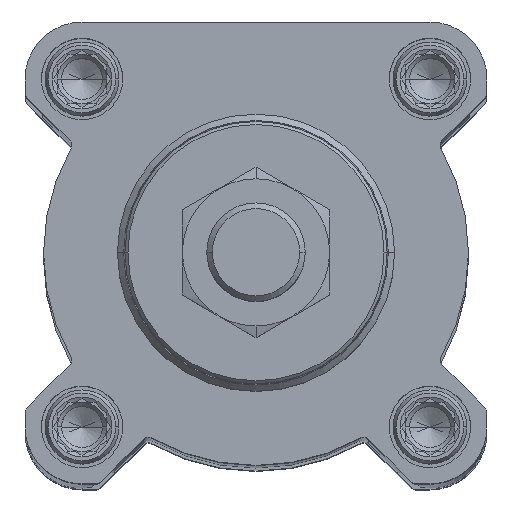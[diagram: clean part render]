
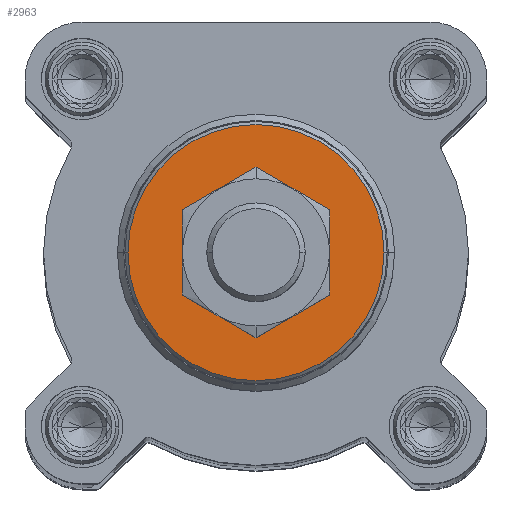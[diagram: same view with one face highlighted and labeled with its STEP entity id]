
A CAD part, top view. The second image highlights one B-rep face of the part: STEP entity #2963.
In plain terms, the highlighted planar face has unit normal (0, 0, 1).
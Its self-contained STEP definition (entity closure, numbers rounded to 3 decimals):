
#196 = DIRECTION ( 'NONE',  ( 0., -1., 0. ) ) ;
#578 = CARTESIAN_POINT ( 'NONE',  ( -20.799, 0., 27. ) ) ;
#670 = ORIENTED_EDGE ( 'NONE', *, *, #10789, .T. ) ;
#727 = AXIS2_PLACEMENT_3D ( 'NONE', #6364, #12506, #196 ) ;
#1183 = CARTESIAN_POINT ( 'NONE',  ( -10., 0., 27. ) ) ;
#2943 = CARTESIAN_POINT ( 'NONE',  ( 0., 0., 27. ) ) ;
#2963 = ADVANCED_FACE ( 'NONE', ( #10986, #13741 ), #14045, .F. ) ;
#3793 = AXIS2_PLACEMENT_3D ( 'NONE', #2943, #15258, #5776 ) ;
#4026 = EDGE_LOOP ( 'NONE', ( #5144, #12317 ) ) ;
#4743 = CIRCLE ( 'NONE', #3793, 10. ) ;
#5144 = ORIENTED_EDGE ( 'NONE', *, *, #7188, .F. ) ;
#5211 = CARTESIAN_POINT ( 'NONE',  ( 20.799, 0., 27. ) ) ;
#5319 = EDGE_CURVE ( 'NONE', #8805, #6653, #16770, .T. ) ;
#5691 = CARTESIAN_POINT ( 'NONE',  ( 0., 0., 27. ) ) ;
#5776 = DIRECTION ( 'NONE',  ( -1., 0., 0. ) ) ;
#6364 = CARTESIAN_POINT ( 'NONE',  ( 0., 0., 27. ) ) ;
#6467 = CIRCLE ( 'NONE', #13241, 20.799 ) ;
#6653 = VERTEX_POINT ( 'NONE', #578 ) ;
#7188 = EDGE_CURVE ( 'NONE', #6653, #8805, #6467, .T. ) ;
#7759 = CARTESIAN_POINT ( 'NONE',  ( 0., 0., 27. ) ) ;
#8023 = EDGE_CURVE ( 'NONE', #11099, #12427, #15477, .T. ) ;
#8351 = EDGE_LOOP ( 'NONE', ( #17185, #670 ) ) ;
#8805 = VERTEX_POINT ( 'NONE', #5211 ) ;
#8992 = DIRECTION ( 'NONE',  ( 0., 0., -1. ) ) ;
#9171 = DIRECTION ( 'NONE',  ( -1., 0., 0. ) ) ;
#9977 = AXIS2_PLACEMENT_3D ( 'NONE', #13800, #10843, #12567 ) ;
#10584 = DIRECTION ( 'NONE',  ( 0., 0., -1. ) ) ;
#10789 = EDGE_CURVE ( 'NONE', #12427, #11099, #4743, .T. ) ;
#10843 = DIRECTION ( 'NONE',  ( 0., 0., -1. ) ) ;
#10986 = FACE_OUTER_BOUND ( 'NONE', #4026, .T. ) ;
#11099 = VERTEX_POINT ( 'NONE', #1183 ) ;
#12317 = ORIENTED_EDGE ( 'NONE', *, *, #5319, .F. ) ;
#12427 = VERTEX_POINT ( 'NONE', #14364 ) ;
#12506 = DIRECTION ( 'NONE',  ( 0., 0., -1. ) ) ;
#12567 = DIRECTION ( 'NONE',  ( -1., 0., 0. ) ) ;
#13241 = AXIS2_PLACEMENT_3D ( 'NONE', #5691, #8992, #14788 ) ;
#13741 = FACE_BOUND ( 'NONE', #8351, .T. ) ;
#13800 = CARTESIAN_POINT ( 'NONE',  ( 0., 0., 27. ) ) ;
#14045 = PLANE ( 'NONE',  #727 ) ;
#14364 = CARTESIAN_POINT ( 'NONE',  ( 10., 0., 27. ) ) ;
#14522 = AXIS2_PLACEMENT_3D ( 'NONE', #7759, #10584, #9171 ) ;
#14788 = DIRECTION ( 'NONE',  ( -1., 0., 0. ) ) ;
#15258 = DIRECTION ( 'NONE',  ( 0., 0., -1. ) ) ;
#15477 = CIRCLE ( 'NONE', #14522, 10. ) ;
#16770 = CIRCLE ( 'NONE', #9977, 20.799 ) ;
#17185 = ORIENTED_EDGE ( 'NONE', *, *, #8023, .T. ) ;
